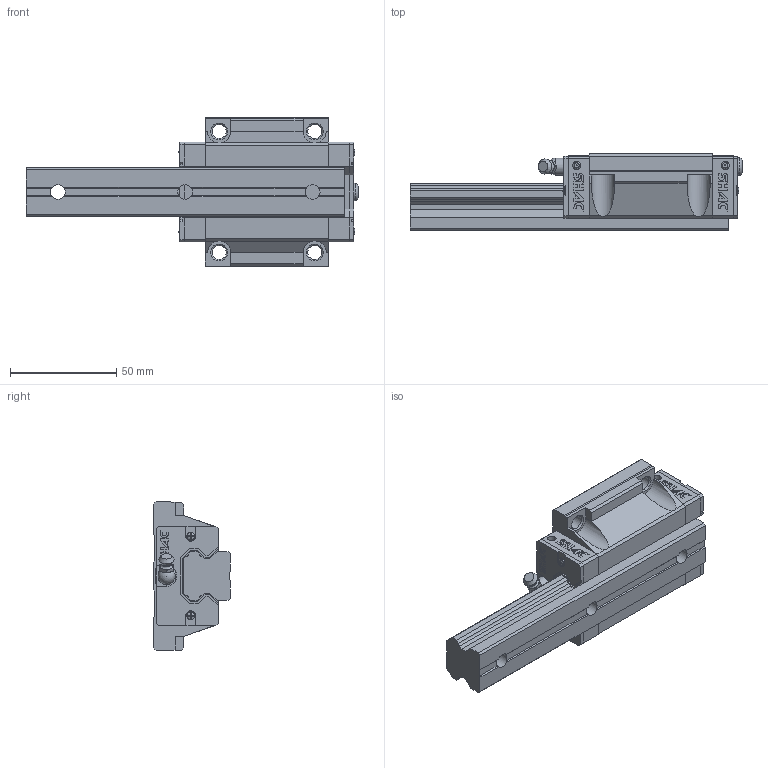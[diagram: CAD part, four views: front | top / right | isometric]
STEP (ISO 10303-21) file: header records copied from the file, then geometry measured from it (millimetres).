
FILE_DESCRIPTION( ( 'STEP AP214' ), '1' );
FILE_NAME( 'F:/品牌/SHAC 台湾鼎翰传动科技有限公司/3D滑块/GHW25CC1R150Z0C-15_15_1_1_.stp', '2025-04-21T22:49:04', ( 'License CC BY-ND 4.0' ), ( 'CADENAS' ), ' ', 'PARTsolutions', ' ' );
FILE_SCHEMA( ( 'AUTOMOTIVE_DESIGN { 1 0 10303 214 1 1 1 1 }' ) );
Length unit declared in the file: millimetre
Products named in the file (8): GHW25CC1R150Z0C-15/15(1_1); _GHR25R150C+RC-15/15(1)_RAIL; _GHW25CC_SLIDER; _GHW25CC_C; _GHW25CC_P; _GH25_SCREW; _GH25_BOLT; _GH25-_G
Assembly tree (12 placements, depth 2):
  GHW25CC1R150Z0C-15/15(1_1)
    _GHR25R150C+RC-15/15(1)_RAIL
    _GHW25CC_SLIDER
    _GHW25CC_C  x2
    _GHW25CC_P  x2
    _GH25_SCREW  x4
    _GH25_BOLT
    _GH25-_G
Bounding box: 156.4 x 36 x 70 mm (x, y, z)
Volume: 170122.3 mm3; surface area: 47376.1 mm2
Topology: 12 solids, 12 shells, 808 faces, 2175 edges, 1437 vertices
Faces by surface type: plane 657, cylinder 111, cone 24, torus 10, sphere 5, bspline 1
Full cylindrical faces by diameter (mm): 0.526 x4, 3 x4, 3.725 x4, 3.9 x6, 4.5 x1, 6 x2, 6.5 x2, 6.647 x4, 7 x3, 8 x1, 8.2 x1, 11 x3
Entity records: 19497 total; most frequent: CARTESIAN_POINT 2868, ORIENTED_EDGE 2580, DIRECTION 2496, EDGE_CURVE 1290, LINE 1046, VECTOR 1046, VERTEX_POINT 877, AXIS2_PLACEMENT_3D 725
